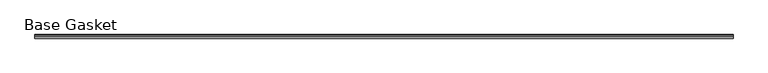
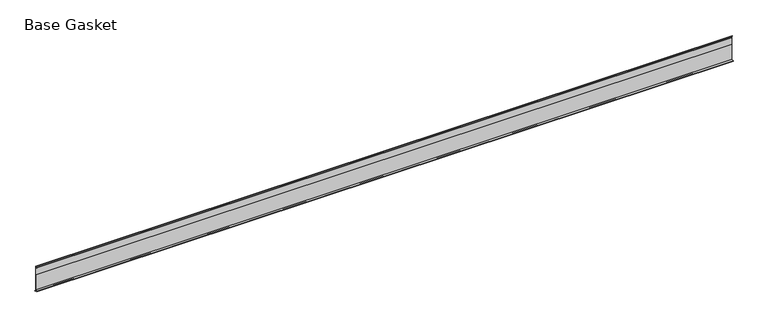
"""IFC4 building model written with IfcOpenShell, lengths in millimetres: furniture geometry, Gasket-Teknion-FHGB-AI_Healthcare-R2021 : Base Gasket."""

from ifc_helpers import new_model, si_unit, frame, origin, place, context, project, spatial, polyline, outline, extrude, source, transform, mapped, element, save


def base_gasket_3cfd47c3(model_context):
    return source(origin(), model_context, "Body", "SweptSolid", [
        extrude(outline(polyline([(3.7283812, 98.4568417), (3.7283812, 4.3498477), (7.4222115, 0.6560174), (7.8482342, 0.0), (6.8281054, 0.3520979), (2.2043812, 4.3498477), (2.1334222, 6.3818476), (-6.2405171, 6.3818476), (-6.2405171, 7.9398773), (2.2043812, 7.9398773), (2.2043812, 71.4693447), (1.4106313, 71.4693447), (1.4106313, 96.8693477), (2.2043812, 96.8693477), (2.2043812, 98.4568417), (0.6755308, 104.4162708), (0.6755308, 105.2002997), (1.1891543, 104.587663), (3.7283812, 98.4568417)])), frame((-1527.8982117, 0.0, 0.0), z_axis=(1.0, 0.0, 0.0), x_axis=(0.0, 1.0, 0.0)), (0.0, 0.0, 1.0), 2709.2123757),
    ])


if __name__ == "__main__":
    model = new_model("IFC4")
    model_context = context("Model", 3, world=origin())
    ifc_project = project(units=[si_unit("LENGTHUNIT", "METRE", prefix="MILLI")], contexts=[model_context])
    site = spatial("IfcSite", under=ifc_project)
    building = spatial("IfcBuilding", under=site)
    placement = place(None, origin())
    base_gasket_shape = base_gasket_3cfd47c3(model_context)
    element("IfcFurniture", 1, ObjectType="Gasket-Teknion-FHGB-AI_Healthcare-R2021 : Base Gasket", at=placement, inside=building, context=model_context, shape_type="MappedRepresentation", body=[
        mapped(base_gasket_shape, transform((0.0, 0.0, 0.0), x_axis=(1.0, 0.0, 0.0), y_axis=(0.0, 1.0, 0.0), z_axis=(0.0, 0.0, 1.0))),
    ])
    save(model, "model.ifc")
